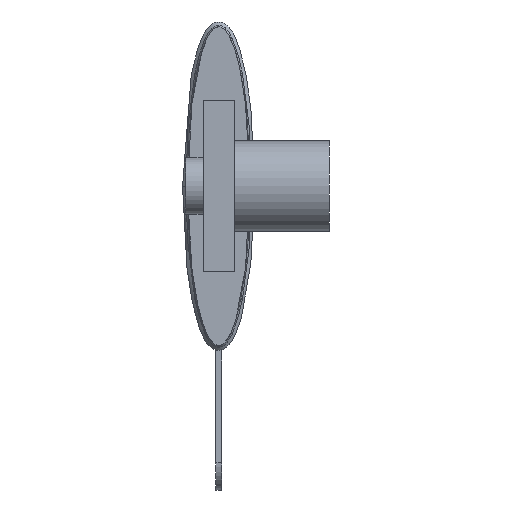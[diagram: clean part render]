
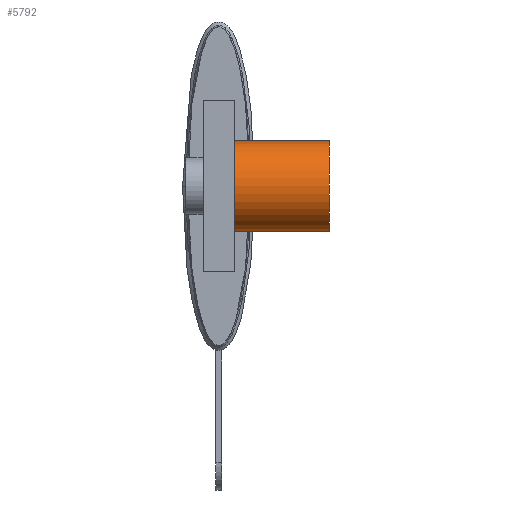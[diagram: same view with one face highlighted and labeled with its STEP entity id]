
A CAD part, left-side view. The second image highlights one B-rep face of the part: STEP entity #5792.
In plain terms, the highlighted cylindrical face has radius 3.97 mm (diameter 7.94 mm), a partial arc.
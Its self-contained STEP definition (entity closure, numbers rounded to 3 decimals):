
#671 = DIRECTION ( 'NONE',  ( 0., 1., 0. ) ) ;
#678 = CARTESIAN_POINT ( 'NONE',  ( -69.85, -31.375, -3.97 ) ) ;
#689 = LINE ( 'NONE', #678, #2110 ) ;
#762 = ORIENTED_EDGE ( 'NONE', *, *, #3249, .F. ) ;
#764 = ORIENTED_EDGE ( 'NONE', *, *, #2753, .T. ) ;
#766 = ORIENTED_EDGE ( 'NONE', *, *, #5051, .T. ) ;
#781 = ORIENTED_EDGE ( 'NONE', *, *, #3811, .T. ) ;
#802 = VERTEX_POINT ( 'NONE', #2298 ) ;
#867 = EDGE_LOOP ( 'NONE', ( #762, #764, #766, #781 ) ) ;
#1067 = AXIS2_PLACEMENT_3D ( 'NONE', #3198, #3195, #3193 ) ;
#1546 = CARTESIAN_POINT ( 'NONE',  ( -69.85, -1.375, -3.97 ) ) ;
#2110 = VECTOR ( 'NONE', #671, 1000. ) ;
#2175 = AXIS2_PLACEMENT_3D ( 'NONE', #3723, #3720, #3717 ) ;
#2298 = CARTESIAN_POINT ( 'NONE',  ( -69.85, -9.735, -3.97 ) ) ;
#2567 = CARTESIAN_POINT ( 'NONE',  ( -69.85, -9.735, 3.97 ) ) ;
#2753 = EDGE_CURVE ( 'NONE', #802, #4316, #4014, .T. ) ;
#2971 = CIRCLE ( 'NONE', #2175, 3.97 ) ;
#3099 = CARTESIAN_POINT ( 'NONE',  ( -69.85, -1.375, 3.97 ) ) ;
#3193 = DIRECTION ( 'NONE',  ( 0., 0., 1. ) ) ;
#3195 = DIRECTION ( 'NONE',  ( 0., 1., 0. ) ) ;
#3198 = CARTESIAN_POINT ( 'NONE',  ( -69.85, -31.375, 0. ) ) ;
#3201 = CYLINDRICAL_SURFACE ( 'NONE', #1067, 3.97 ) ;
#3205 = FACE_OUTER_BOUND ( 'NONE', #867, .T. ) ;
#3249 = EDGE_CURVE ( 'NONE', #802, #4642, #689, .T. ) ;
#3682 = DIRECTION ( 'NONE',  ( 0., 0., 1. ) ) ;
#3686 = DIRECTION ( 'NONE',  ( 0., 1., 0. ) ) ;
#3695 = CARTESIAN_POINT ( 'NONE',  ( -69.85, -9.735, 0. ) ) ;
#3717 = DIRECTION ( 'NONE',  ( 0., 0., 1. ) ) ;
#3720 = DIRECTION ( 'NONE',  ( 0., -1., 0. ) ) ;
#3723 = CARTESIAN_POINT ( 'NONE',  ( -69.85, -1.375, 0. ) ) ;
#3811 = EDGE_CURVE ( 'NONE', #5858, #4642, #2971, .T. ) ;
#3996 = AXIS2_PLACEMENT_3D ( 'NONE', #3695, #3686, #3682 ) ;
#4014 = CIRCLE ( 'NONE', #3996, 3.97 ) ;
#4316 = VERTEX_POINT ( 'NONE', #2567 ) ;
#4642 = VERTEX_POINT ( 'NONE', #1546 ) ;
#4861 = VECTOR ( 'NONE', #6330, 1000. ) ;
#5051 = EDGE_CURVE ( 'NONE', #4316, #5858, #6344, .T. ) ;
#5792 = ADVANCED_FACE ( 'NONE', ( #3205 ), #3201, .T. ) ;
#5858 = VERTEX_POINT ( 'NONE', #3099 ) ;
#6330 = DIRECTION ( 'NONE',  ( 0., 1., 0. ) ) ;
#6333 = CARTESIAN_POINT ( 'NONE',  ( -69.85, -31.375, 3.97 ) ) ;
#6344 = LINE ( 'NONE', #6333, #4861 ) ;
